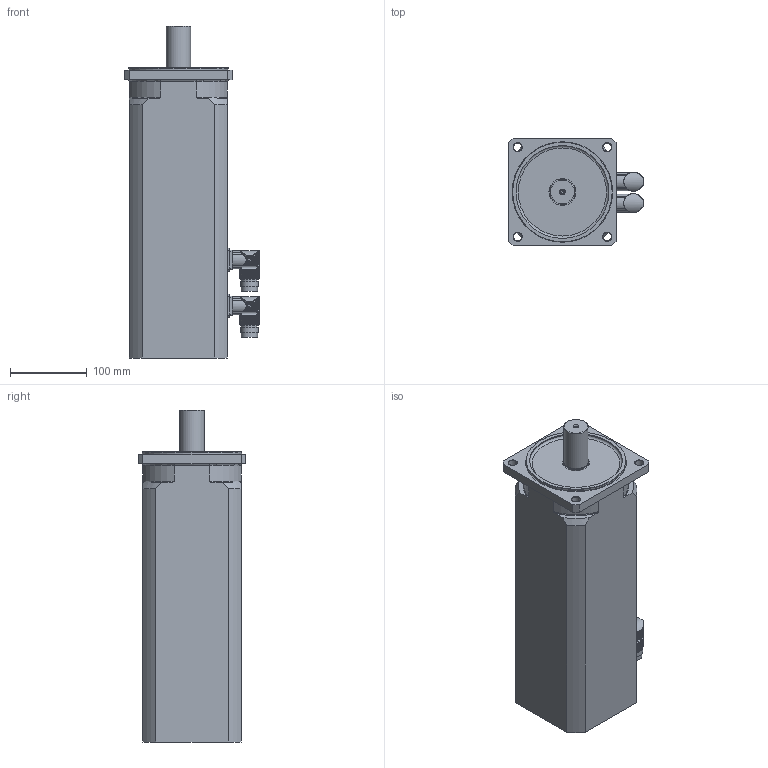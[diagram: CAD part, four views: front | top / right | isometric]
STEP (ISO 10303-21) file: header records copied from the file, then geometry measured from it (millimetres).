
FILE_DESCRIPTION(/* description */ (''),/* implementation_level */ '2;1');
FILE_NAME(/* name */ 'MR 7458-Ux-Nxxx-G##-A0D-MS',/* time_stamp */ '2007-07-13T09:50:00+01:00',/* author */ (''),/* organization */ ('ESR Pollmeier GmbH'),/* preprocessor_version */ 'ST-DEVELOPER v8',/* originating_system */ 'UNIGRAPHICS SOLUTIONS - UNIGRAPHICS 18.0',/* authorisation */ '');
FILE_SCHEMA (('AUTOMOTIVE_DESIGN { 1 2 10303 214 0 1 1 1 }'));
Length unit declared in the file: millimetre
Products named in the file (3): Winkelflanschdose_0; Rotor_SY5_0; MR7458-Ux-Nxxx-G##-A0D-MS_0
Assembly tree (3 placements, depth 2):
  MR7458-Ux-Nxxx-G##-A0D-MS_0
    Rotor_SY5_0
    Winkelflanschdose_0  x2
Bounding box: 175.49 x 140 x 433 mm (x, y, z)
Volume: 6087266 mm3; surface area: 248227.8 mm2
Topology: 4 solids, 4 shells, 419 faces, 1162 edges, 769 vertices
Faces by surface type: cylinder 319, plane 74, cone 13, torus 13
Full cylindrical faces by diameter (mm): 4.351 x1, 5.5 x1, 11 x4, 16 x2, 21 x2, 21.5 x2, 23 x4, 31.52 x1, 32 x1, 35 x1, 121 x1, 130 x1
Entity records: 8421 total; most frequent: CARTESIAN_POINT 2117, ORIENTED_EDGE 1310, DIRECTION 1248, EDGE_CURVE 655, AXIS2_PLACEMENT_3D 498, VERTEX_POINT 449, EDGE_LOOP 305, ADVANCED_FACE 255
